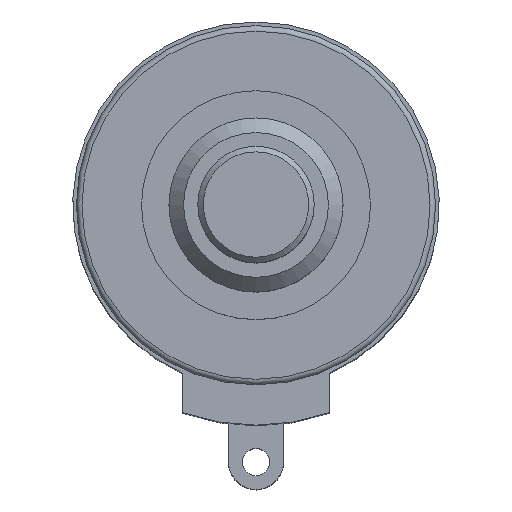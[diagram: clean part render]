
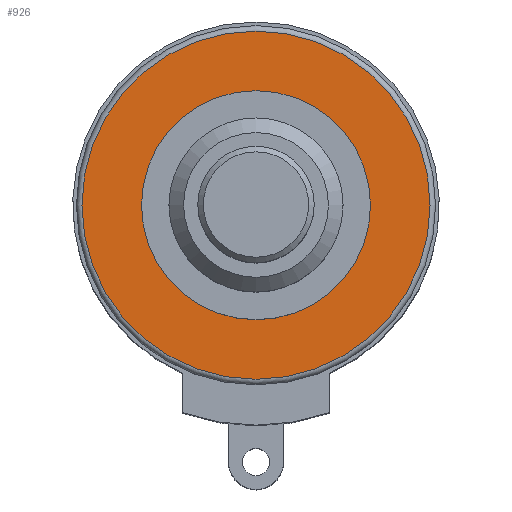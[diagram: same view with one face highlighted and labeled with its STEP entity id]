
A CAD part, top view. The second image highlights one B-rep face of the part: STEP entity #926.
In plain terms, the highlighted planar face has unit normal (0, 0, 1).
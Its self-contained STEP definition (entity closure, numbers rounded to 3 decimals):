
#1 = CARTESIAN_POINT ( 'NONE',  ( 0., -6.25, 1.2 ) ) ;
#13 = AXIS2_PLACEMENT_3D ( 'NONE', #954, #866, #875 ) ;
#21 = ORIENTED_EDGE ( 'NONE', *, *, #848, .T. ) ;
#40 = DIRECTION ( 'NONE',  ( -1., 0., 0. ) ) ;
#111 = FACE_OUTER_BOUND ( 'NONE', #619, .T. ) ;
#121 = CARTESIAN_POINT ( 'NONE',  ( 0., 0., 1.2 ) ) ;
#136 = AXIS2_PLACEMENT_3D ( 'NONE', #846, #1129, #40 ) ;
#138 = CIRCLE ( 'NONE', #1018, 9.5 ) ;
#215 = PLANE ( 'NONE',  #136 ) ;
#438 = CARTESIAN_POINT ( 'NONE',  ( -9.5, 0., 1.2 ) ) ;
#477 = VERTEX_POINT ( 'NONE', #1 ) ;
#509 = EDGE_LOOP ( 'NONE', ( #553 ) ) ;
#553 = ORIENTED_EDGE ( 'NONE', *, *, #1069, .F. ) ;
#554 = DIRECTION ( 'NONE',  ( 0., 0., 1. ) ) ;
#619 = EDGE_LOOP ( 'NONE', ( #21 ) ) ;
#661 = VERTEX_POINT ( 'NONE', #438 ) ;
#734 = CIRCLE ( 'NONE', #13, 6.25 ) ;
#757 = DIRECTION ( 'NONE',  ( -1., 0., 0. ) ) ;
#846 = CARTESIAN_POINT ( 'NONE',  ( 0., 0., 1.2 ) ) ;
#848 = EDGE_CURVE ( 'NONE', #661, #661, #138, .T. ) ;
#866 = DIRECTION ( 'NONE',  ( 0., 0., 1. ) ) ;
#875 = DIRECTION ( 'NONE',  ( 0., -1., 0. ) ) ;
#926 = ADVANCED_FACE ( 'NONE', ( #111, #1131 ), #215, .F. ) ;
#954 = CARTESIAN_POINT ( 'NONE',  ( 0., 0., 1.2 ) ) ;
#1018 = AXIS2_PLACEMENT_3D ( 'NONE', #121, #554, #757 ) ;
#1069 = EDGE_CURVE ( 'NONE', #477, #477, #734, .T. ) ;
#1129 = DIRECTION ( 'NONE',  ( 0., 0., -1. ) ) ;
#1131 = FACE_BOUND ( 'NONE', #509, .T. ) ;
